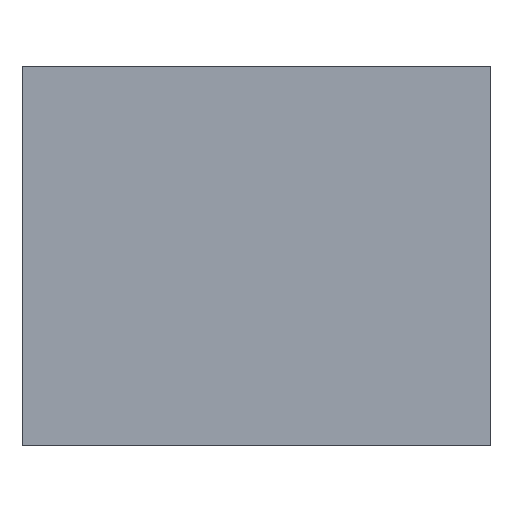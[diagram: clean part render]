
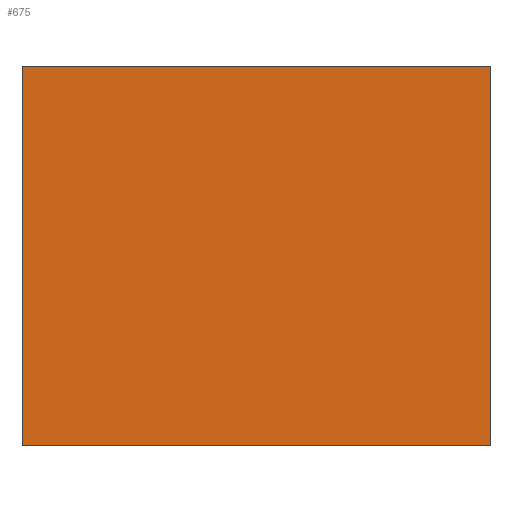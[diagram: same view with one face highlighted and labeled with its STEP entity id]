
A CAD part, front view. The second image highlights one B-rep face of the part: STEP entity #675.
In plain terms, the highlighted planar face has unit normal (0, -1, 0).
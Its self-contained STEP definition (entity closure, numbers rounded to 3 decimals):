
#26 = LINE ( 'NONE', #510, #754 ) ;
#43 = LINE ( 'NONE', #381, #361 ) ;
#55 = LINE ( 'NONE', #362, #990 ) ;
#106 = VERTEX_POINT ( 'NONE', #708 ) ;
#126 = DIRECTION ( 'NONE',  ( 0., 0., -1. ) ) ;
#155 = ORIENTED_EDGE ( 'NONE', *, *, #481, .T. ) ;
#173 = ORIENTED_EDGE ( 'NONE', *, *, #988, .T. ) ;
#174 = EDGE_CURVE ( 'NONE', #733, #920, #43, .T. ) ;
#240 = PLANE ( 'NONE',  #568 ) ;
#338 = ORIENTED_EDGE ( 'NONE', *, *, #345, .F. ) ;
#345 = EDGE_CURVE ( 'NONE', #920, #106, #55, .T. ) ;
#346 = LINE ( 'NONE', #666, #704 ) ;
#361 = VECTOR ( 'NONE', #541, 1000. ) ;
#362 = CARTESIAN_POINT ( 'NONE',  ( 49.5, -3.483, 40. ) ) ;
#381 = CARTESIAN_POINT ( 'NONE',  ( 0., -3.483, 40. ) ) ;
#481 = EDGE_CURVE ( 'NONE', #733, #544, #346, .T. ) ;
#510 = CARTESIAN_POINT ( 'NONE',  ( 0., -3.483, 0. ) ) ;
#531 = ORIENTED_EDGE ( 'NONE', *, *, #174, .F. ) ;
#541 = DIRECTION ( 'NONE',  ( 1., 0., 0. ) ) ;
#544 = VERTEX_POINT ( 'NONE', #909 ) ;
#568 = AXIS2_PLACEMENT_3D ( 'NONE', #740, #806, #662 ) ;
#570 = DIRECTION ( 'NONE',  ( 1., 0., 0. ) ) ;
#572 = CARTESIAN_POINT ( 'NONE',  ( 0., -3.483, 40. ) ) ;
#644 = FACE_OUTER_BOUND ( 'NONE', #897, .T. ) ;
#662 = DIRECTION ( 'NONE',  ( 0., 0., 1. ) ) ;
#666 = CARTESIAN_POINT ( 'NONE',  ( 0., -3.483, 40. ) ) ;
#675 = ADVANCED_FACE ( 'NONE', ( #644 ), #240, .F. ) ;
#704 = VECTOR ( 'NONE', #984, 1000. ) ;
#708 = CARTESIAN_POINT ( 'NONE',  ( 49.5, -3.483, 0. ) ) ;
#733 = VERTEX_POINT ( 'NONE', #572 ) ;
#740 = CARTESIAN_POINT ( 'NONE',  ( 0., -3.483, 40. ) ) ;
#754 = VECTOR ( 'NONE', #570, 1000. ) ;
#806 = DIRECTION ( 'NONE',  ( 0., 1., 0. ) ) ;
#887 = CARTESIAN_POINT ( 'NONE',  ( 49.5, -3.483, 40. ) ) ;
#897 = EDGE_LOOP ( 'NONE', ( #173, #338, #531, #155 ) ) ;
#909 = CARTESIAN_POINT ( 'NONE',  ( 0., -3.483, 0. ) ) ;
#920 = VERTEX_POINT ( 'NONE', #887 ) ;
#984 = DIRECTION ( 'NONE',  ( 0., 0., -1. ) ) ;
#988 = EDGE_CURVE ( 'NONE', #544, #106, #26, .T. ) ;
#990 = VECTOR ( 'NONE', #126, 1000. ) ;
